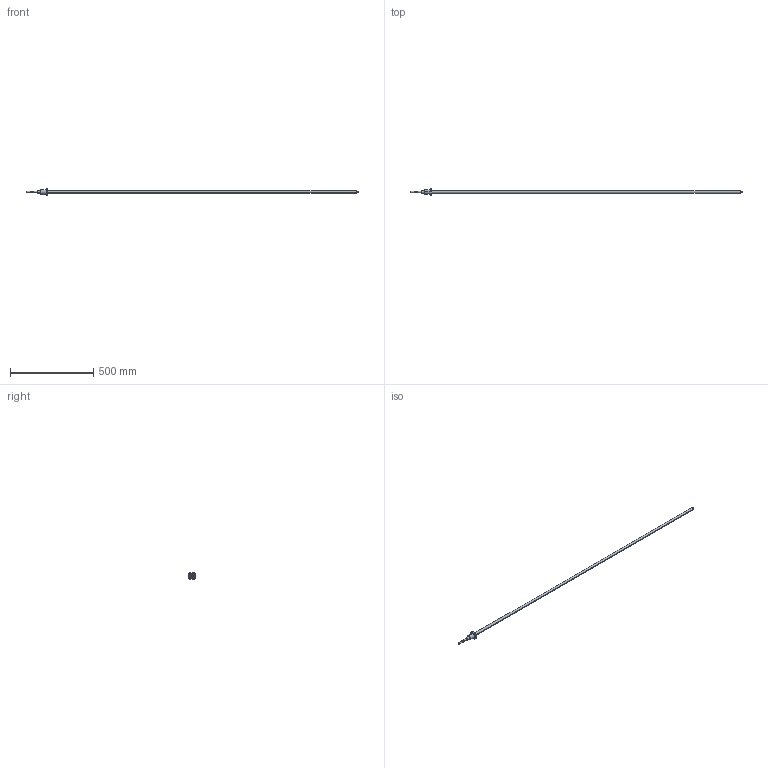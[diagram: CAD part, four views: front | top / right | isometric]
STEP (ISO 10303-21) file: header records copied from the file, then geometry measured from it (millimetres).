
FILE_DESCRIPTION (( 'STEP AP214' ), '1' );
FILE_NAME ('7.3006 STNUR1605-DFC7-2000mm.STEP', '2026-03-10T09:08:07', ( '' ), ( '' ), 'SwSTEP 2.0', 'SolidWorks 2025', '' );
FILE_SCHEMA (( 'AUTOMOTIVE_DESIGN' ));
Length unit declared in the file: millimetre
Products named in the file (3): 7.3031 TCR1605-FC7; 7.3103 STNUR1605T4D; 7.3006 STNUR1605-DFC7-2000mm
Assembly tree (2 placements, depth 2):
  7.3006 STNUR1605-DFC7-2000mm
    7.3031 TCR1605-FC7
    7.3103 STNUR1605T4D
Bounding box: 2000 x 48 x 40 mm (x, y, z)
Volume: 411350.4 mm3; surface area: 109518 mm2
Topology: 2 solids, 2 shells, 158 faces, 424 edges, 276 vertices
Faces by surface type: cylinder 79, plane 35, bspline 29, cone 15
Entity records: 17051 total; most frequent: CARTESIAN_POINT 13441, ORIENTED_EDGE 848, DIRECTION 573, EDGE_CURVE 424, VERTEX_POINT 276, AXIS2_PLACEMENT_3D 211, EDGE_LOOP 180, FACE_OUTER_BOUND 158
